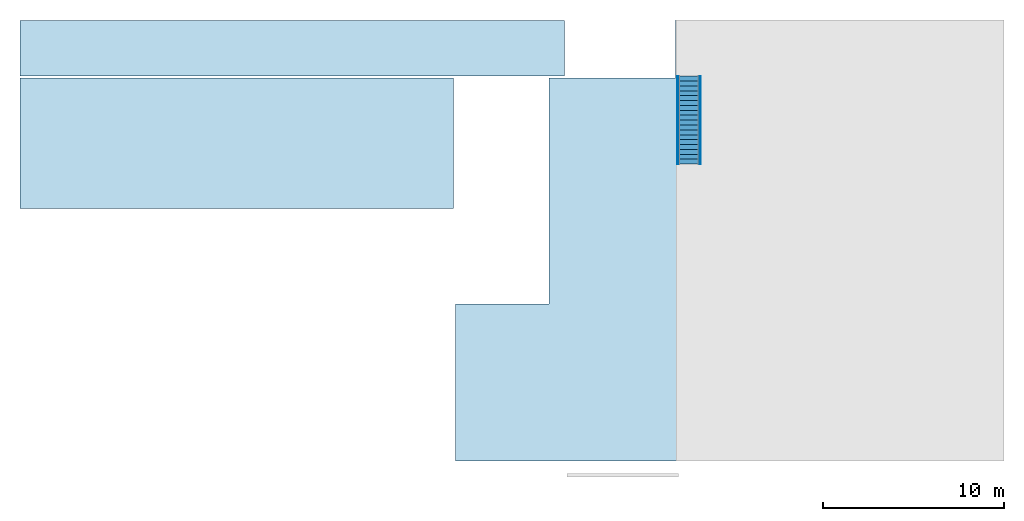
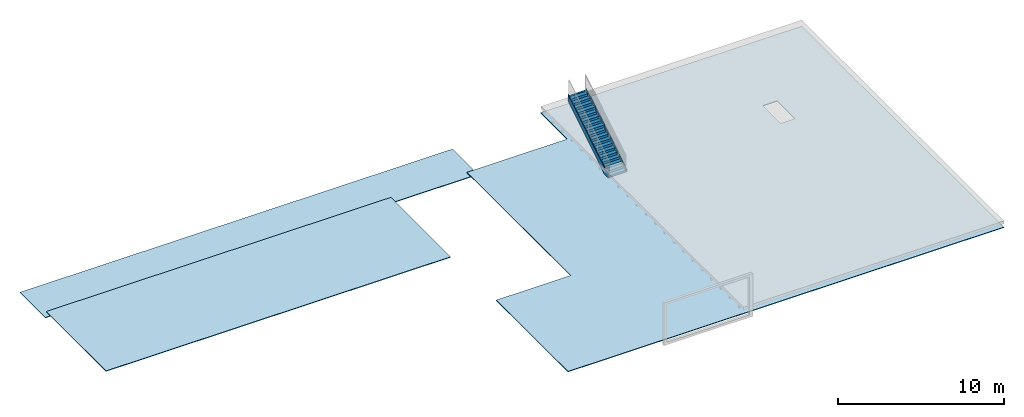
# One storey, part 1 of 4: 3 slabs, 2 members, 1 stair flight, 1 opening, 1 element without a shape of its own.
"""IFC2X3 building model written with IfcOpenShell, lengths in millimetres."""

from ifc_helpers import new_model, entity, si_unit, converted_unit, derived_unit, direction, frame, frame_2d, origin, origin_2d_with_axis, place, context, subcontext, project, spatial, polyline, rectangle, outline, extrude, material, layer, layer_set, layer_usage, type_object, element, aggregate, save


model = new_model("IFC2X3")

# Units and contexts
model_context = context("Model", 3, precision=0.01, world=origin(), true_north=direction((4.05803320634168e-15, -1.0)))
body_context = subcontext(model_context, "Body", "Model", "MODEL_VIEW")
ifc_project = project(units=[si_unit("LENGTHUNIT", "METRE", prefix="MILLI"), si_unit("AREAUNIT", "SQUARE_METRE"), si_unit("VOLUMEUNIT", "CUBIC_METRE"), converted_unit("PLANEANGLEUNIT", "DEGREE", entity("IfcRatioMeasure", 0.0174532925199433), si_unit("PLANEANGLEUNIT", "RADIAN"), dimensions=[0, 0, 0, 0, 0, 0, 0]), si_unit("MASSUNIT", "GRAM", prefix="KILO"), derived_unit("MASSDENSITYUNIT", [(si_unit("MASSUNIT", "GRAM", prefix="KILO"), 1), (si_unit("LENGTHUNIT", "METRE"), -3)]), si_unit("TIMEUNIT", "SECOND"), si_unit("FREQUENCYUNIT", "HERTZ"), si_unit("THERMODYNAMICTEMPERATUREUNIT", "DEGREE_CELSIUS"), derived_unit("THERMALTRANSMITTANCEUNIT", [(si_unit("MASSUNIT", "GRAM", prefix="KILO"), 1), (si_unit("THERMODYNAMICTEMPERATUREUNIT", "KELVIN"), -1), (si_unit("TIMEUNIT", "SECOND"), -3)]), derived_unit("VOLUMETRICFLOWRATEUNIT", [(si_unit("LENGTHUNIT", "METRE"), 3), (si_unit("TIMEUNIT", "SECOND"), -1)]), si_unit("ELECTRICCURRENTUNIT", "AMPERE"), si_unit("ELECTRICVOLTAGEUNIT", "VOLT"), si_unit("POWERUNIT", "WATT"), si_unit("FORCEUNIT", "NEWTON", prefix="KILO"), si_unit("ILLUMINANCEUNIT", "LUX"), si_unit("LUMINOUSFLUXUNIT", "LUMEN"), si_unit("LUMINOUSINTENSITYUNIT", "CANDELA"), derived_unit("USERDEFINED", [(si_unit("MASSUNIT", "GRAM", prefix="KILO"), -1), (si_unit("LENGTHUNIT", "METRE"), -2), (si_unit("TIMEUNIT", "SECOND"), 3), (si_unit("LUMINOUSFLUXUNIT", "LUMEN"), 1)]), derived_unit("LINEARVELOCITYUNIT", [(si_unit("LENGTHUNIT", "METRE"), 1), (si_unit("TIMEUNIT", "SECOND"), -1)]), si_unit("PRESSUREUNIT", "PASCAL"), derived_unit("USERDEFINED", [(si_unit("LENGTHUNIT", "METRE"), -2), (si_unit("MASSUNIT", "GRAM", prefix="KILO"), 1), (si_unit("TIMEUNIT", "SECOND"), -2)])], contexts=[model_context])

# Site, building, storey
site_placement = place(None, frame((927466.849349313, 583801.882853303, 0.0), z_axis=(0.0, 0.0, 1.0), x_axis=(-1.0, 0.0, 0.0)))
site = spatial("IfcSite", under=ifc_project, at=site_placement, Name="Surface", CompositionType="ELEMENT")
building_placement = place(site_placement, origin())
building = spatial("IfcBuilding", under=site, at=building_placement, CompositionType="ELEMENT")
storey_placement = place(building_placement, frame((0.0, 0.0, 47670.0)))
storey = spatial("IfcBuildingStorey", under=building, at=storey_placement, Name="Ceiling 3500", CompositionType="ELEMENT", Elevation=47670.0)

# Stair, members
stair_placement = place(storey_placement, origin())
stair = element("IfcStair", 1, at=stair_placement, inside=storey, Name="Assembled Stair:Stair", ObjectType="Assembled Stair:170mm max riser 270mm going", ShapeType="NOTDEFINED")
member_type = type_object("IfcMemberType", Name="Stringer:Stringer - 50mm Width", PredefinedType="STRINGER")
member_1_placement = place(stair_placement, origin())
member_1 = element("IfcMember", 2, at=member_1_placement, type_object=member_type, Name="Assembled Stair:Stair:770226 Stringer 1", ObjectType="Assembled Stair:170mm max riser 270mm going", context=body_context, shape_type="SweptSolid", body=[
    extrude(outline(polyline([(-2252.39228687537, -200.184465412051), (3466.85810106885, -200.18446541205), (3218.7099529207, 199.815534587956), (-2056.13722178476, 199.815534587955), (-2377.03854532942, 0.73786164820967), (-2252.39228687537, -200.184465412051)])), frame((-117250.59177989, 17947.9429596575, 1253.72325661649), z_axis=(1.0, 0.0, 0.0), x_axis=(0.0, -0.849761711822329, 0.527166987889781)), (0.0, 0.0, 1.0), 50.0000000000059),
])
member_2_placement = place(stair_placement, origin())
member_2 = element("IfcMember", 3, at=member_2_placement, type_object=member_type, Name="Assembled Stair:Stair:770226 Stringer 2", ObjectType="Assembled Stair:170mm max riser 270mm going", context=body_context, shape_type="SweptSolid", body=[
    extrude(outline(polyline([(-2252.39228687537, -200.184465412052), (3466.85810106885, -200.184465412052), (3218.70995292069, 199.815534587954), (-2056.13722178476, 199.815534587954), (-2377.03854532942, 0.737861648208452), (-2252.39228687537, -200.184465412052)])), frame((-118500.59177989, 17947.9429596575, 1253.72325661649), z_axis=(1.0, 0.0, 0.0), x_axis=(0.0, -0.849761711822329, 0.527166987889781)), (0.0, 0.0, 1.0), 50.0000000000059),
])

# Slabs
ifc_material = material(Name="Isopenal")
ifc_layer = layer(ifc_material, 50.0)
ifc_layer_set = layer_set([ifc_layer], Name="Floor:isopanel ceiling 50")
ifc_layer_usage_1 = layer_usage(ifc_layer_set, "AXIS3", "POSITIVE", 0.0)
slab_1_placement = place(storey_placement, origin())
element("IfcSlab", 4, at=slab_1_placement, inside=storey, material=ifc_layer_usage_1, Name="Floor:isopanel ceiling 50", ObjectType="Floor:isopanel ceiling 50", PredefinedType="FLOOR", context=body_context, shape_type="SweptSolid", body=[
    extrude(rectangle(XDim=3060.36927574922, YDim=30061.7964792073, at=frame_2d((1.13686837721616e-12, 0.0), x_axis=(1.0, 0.0))), frame((-95928.0390372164, 13577.285688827, -450.0), z_axis=(0.0, 0.0, -1.0), x_axis=(0.0, 1.0, 0.0)), (0.0, 0.0, 1.0), 49.9999999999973),
])
ifc_layer_usage_2 = layer_usage(ifc_layer_set, "AXIS3", "POSITIVE", 0.0)
slab_2_placement = place(storey_placement, frame((-135247.93727682, 12008.2777512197, 0.0)))
element("IfcSlab", 5, at=slab_2_placement, inside=storey, material=ifc_layer_usage_2, Name="Floor:isopanel ceiling 50", ObjectType="Floor:isopanel ceiling 50", PredefinedType="FLOOR", context=body_context, shape_type="SweptSolid", body=[
    extrude(rectangle(XDim=7200.00000000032, YDim=23950.7964792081, at=frame_2d((-15200.0, -5374.65349991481), x_axis=(0.0, 1.0))), frame((27175.3982396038, 12173.8460753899, 50.0), z_axis=(0.0, 0.0, -1.0), x_axis=(-1.0, 0.0, 0.0)), (0.0, 0.0, 1.0), 49.9999999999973),
])

# Slab, opening
slab_3_placement = place(storey_placement, frame((-135247.93727682, 12008.2777512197, 0.0)))
slab_3 = element("IfcSlab", 6, at=slab_3_placement, inside=storey, material=ifc_layer_usage_2, Name="Floor:isopanel ceiling 50:2", ObjectType="Floor:isopanel ceiling 50", PredefinedType="FLOOR", context=body_context, shape_type="SweptSolid", body=[
    extrude(outline(polyline([(9028.05274267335, -8974.65349991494), (9028.05274267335, -12173.8460753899), (27175.3982396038, -12173.8460753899), (27175.3982396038, 12173.8460753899), (-3124.60176039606, 12173.8460753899), (-3124.60176039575, 3526.29135359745), (2055.39823960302, 3526.29135359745), (2055.39823960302, -8974.65349991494), (9028.05274267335, -8974.65349991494)])), frame((27175.3982396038, 12173.8460753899, 50.0), z_axis=(0.0, 0.0, -1.0), x_axis=(-1.0, 0.0, 0.0)), (0.0, 0.0, 1.0), 49.9999999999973),
])
opening_placement = place(slab_2_placement, frame((5700.0, 7123.45064437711, 50.0)))
element("IfcOpeningElement", 7, at=opening_placement, cuts=slab_3, Name="Floor:isopanel ceiling 50:2", ObjectType="Opening", context=body_context, shape_type="SweptSolid", body=[
    extrude(rectangle(XDim=2151.52822149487, YDim=999.999999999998, at=origin_2d_with_axis()), frame((0.0, 0.0, 0.0), z_axis=(0.0, 0.0, -1.0), x_axis=(0.0, -1.0, 0.0)), (0.0, 0.0, 1.0), 49.9999999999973),
])

# Stair flight
stair_flight_placement = place(stair_placement, origin())
stair_flight = element("IfcStairFlight", 8, at=stair_flight_placement, Name="Assembled Stair:Stair:770226 Run 1", ObjectType="Assembled Stair:170mm max riser 270mm going", NumberOfRiser=19, NumberOfTreads=18, RiserHeight=0.5495406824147, TreadLength=0.885826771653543, context=body_context, shape_type="SweptSolid", body=[
    extrude(rectangle(XDim=1200.0, YDim=12.5000000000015, at=frame_2d((0.0, 2.16582307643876e-12), x_axis=(1.0, 0.0))), frame((-117850.59177989, 19961.2203267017, 0.0)), (0.0, 0.0, 1.0), 117.499999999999),
    extrude(rectangle(XDim=269.999999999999, YDim=1200.0, at=origin_2d_with_axis()), frame((-117850.59177989, 19832.4703267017, 117.499999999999), z_axis=(0.0, 0.0, 1.0), x_axis=(0.0, 1.0, 0.0)), (0.0, 0.0, 1.0), 49.9999999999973),
    extrude(rectangle(XDim=1200.0, YDim=12.5000000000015, at=frame_2d((0.0, 2.16582307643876e-12), x_axis=(1.0, 0.0))), frame((-117850.59177989, 19691.2203267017, 117.499999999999)), (0.0, 0.0, 1.0), 167.500000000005),
    extrude(rectangle(XDim=270.000000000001, YDim=1200.0, at=frame_2d((-1.08002495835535e-12, 0.0), x_axis=(1.0, 0.0))), frame((-117850.59177989, 19562.4703267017, 285.0), z_axis=(0.0, 0.0, 1.0), x_axis=(0.0, 1.0, 0.0)), (0.0, 0.0, 1.0), 49.9999999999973),
    extrude(rectangle(XDim=1200.0, YDim=12.5000000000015, at=origin_2d_with_axis()), frame((-117850.59177989, 19421.2203267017, 285.0)), (0.0, 0.0, 1.0), 167.500000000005),
    extrude(rectangle(XDim=270.000000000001, YDim=1200.0, at=frame_2d((-1.08002495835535e-12, 0.0), x_axis=(1.0, 0.0))), frame((-117850.59177989, 19292.4703267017, 452.500000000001), z_axis=(0.0, 0.0, 1.0), x_axis=(0.0, 1.0, 0.0)), (0.0, 0.0, 1.0), 49.9999999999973),
    extrude(rectangle(XDim=1200.0, YDim=12.5000000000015, at=origin_2d_with_axis()), frame((-117850.59177989, 19151.2203267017, 452.500000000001)), (0.0, 0.0, 1.0), 167.500000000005),
    extrude(rectangle(XDim=270.000000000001, YDim=1200.0, at=frame_2d((-1.08002495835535e-12, 0.0), x_axis=(1.0, 0.0))), frame((-117850.59177989, 19022.4703267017, 620.0), z_axis=(0.0, 0.0, 1.0), x_axis=(0.0, 1.0, 0.0)), (0.0, 0.0, 1.0), 49.9999999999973),
    extrude(rectangle(XDim=1200.0, YDim=12.5000000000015, at=origin_2d_with_axis()), frame((-117850.59177989, 18881.2203267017, 620.0)), (0.0, 0.0, 1.0), 167.500000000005),
    extrude(rectangle(XDim=270.000000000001, YDim=1200.0, at=frame_2d((1.08002495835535e-12, 0.0), x_axis=(1.0, 0.0))), frame((-117850.59177989, 18752.4703267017, 787.500000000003), z_axis=(0.0, 0.0, 1.0), x_axis=(0.0, 1.0, 0.0)), (0.0, 0.0, 1.0), 49.9999999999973),
    extrude(rectangle(XDim=1200.0, YDim=12.5000000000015, at=origin_2d_with_axis()), frame((-117850.59177989, 18611.2203267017, 787.500000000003)), (0.0, 0.0, 1.0), 167.500000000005),
    extrude(rectangle(XDim=270.000000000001, YDim=1200.0, at=frame_2d((1.08002495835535e-12, 0.0), x_axis=(1.0, 0.0))), frame((-117850.59177989, 18482.4703267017, 955.0), z_axis=(0.0, 0.0, 1.0), x_axis=(0.0, 1.0, 0.0)), (0.0, 0.0, 1.0), 49.9999999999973),
    extrude(rectangle(XDim=1200.0, YDim=12.5000000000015, at=origin_2d_with_axis()), frame((-117850.59177989, 18341.2203267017, 955.0)), (0.0, 0.0, 1.0), 167.500000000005),
    extrude(rectangle(XDim=270.000000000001, YDim=1200.0, at=frame_2d((1.08002495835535e-12, 0.0), x_axis=(1.0, 0.0))), frame((-117850.59177989, 18212.4703267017, 1122.5), z_axis=(0.0, 0.0, 1.0), x_axis=(0.0, 1.0, 0.0)), (0.0, 0.0, 1.0), 49.9999999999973),
    extrude(rectangle(XDim=1200.0, YDim=12.5000000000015, at=origin_2d_with_axis()), frame((-117850.59177989, 18071.2203267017, 1122.5)), (0.0, 0.0, 1.0), 167.500000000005),
    extrude(rectangle(XDim=270.000000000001, YDim=1200.0, at=frame_2d((-1.08002495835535e-12, 0.0), x_axis=(1.0, 0.0))), frame((-117850.59177989, 17942.4703267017, 1290.0), z_axis=(0.0, 0.0, 1.0), x_axis=(0.0, 1.0, 0.0)), (0.0, 0.0, 1.0), 49.9999999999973),
    extrude(rectangle(XDim=1200.0, YDim=12.5000000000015, at=frame_2d((0.0, -2.16582307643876e-12), x_axis=(1.0, 0.0))), frame((-117850.59177989, 17801.2203267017, 1290.0)), (0.0, 0.0, 1.0), 167.500000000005),
    extrude(rectangle(XDim=270.000000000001, YDim=1200.0, at=frame_2d((-1.08002495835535e-12, 0.0), x_axis=(1.0, 0.0))), frame((-117850.59177989, 17672.4703267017, 1457.50000000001), z_axis=(0.0, 0.0, 1.0), x_axis=(0.0, 1.0, 0.0)), (0.0, 0.0, 1.0), 49.9999999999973),
    extrude(rectangle(XDim=1200.0, YDim=12.5000000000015, at=origin_2d_with_axis()), frame((-117850.59177989, 17531.2203267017, 1457.50000000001)), (0.0, 0.0, 1.0), 167.500000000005),
    extrude(rectangle(XDim=270.000000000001, YDim=1200.0, at=frame_2d((1.08002495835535e-12, 0.0), x_axis=(1.0, 0.0))), frame((-117850.59177989, 17402.4703267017, 1625.0), z_axis=(0.0, 0.0, 1.0), x_axis=(0.0, 1.0, 0.0)), (0.0, 0.0, 1.0), 49.9999999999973),
    extrude(rectangle(XDim=1200.0, YDim=12.5000000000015, at=origin_2d_with_axis()), frame((-117850.59177989, 17261.2203267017, 1625.0)), (0.0, 0.0, 1.0), 167.500000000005),
    extrude(rectangle(XDim=270.000000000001, YDim=1200.0, at=frame_2d((1.08002495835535e-12, 0.0), x_axis=(1.0, 0.0))), frame((-117850.59177989, 17132.4703267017, 1792.50000000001), z_axis=(0.0, 0.0, 1.0), x_axis=(0.0, 1.0, 0.0)), (0.0, 0.0, 1.0), 49.9999999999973),
    extrude(rectangle(XDim=1200.0, YDim=12.5000000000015, at=origin_2d_with_axis()), frame((-117850.59177989, 16991.2203267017, 1792.5)), (0.0, 0.0, 1.0), 167.500000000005),
    extrude(rectangle(XDim=270.000000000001, YDim=1200.0, at=frame_2d((1.08002495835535e-12, 0.0), x_axis=(1.0, 0.0))), frame((-117850.59177989, 16862.4703267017, 1960.0), z_axis=(0.0, 0.0, 1.0), x_axis=(0.0, 1.0, 0.0)), (0.0, 0.0, 1.0), 49.9999999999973),
    extrude(rectangle(XDim=1200.0, YDim=12.5000000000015, at=origin_2d_with_axis()), frame((-117850.59177989, 16721.2203267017, 1960.0)), (0.0, 0.0, 1.0), 167.500000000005),
    extrude(rectangle(XDim=270.000000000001, YDim=1200.0, at=frame_2d((1.08002495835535e-12, 0.0), x_axis=(1.0, 0.0))), frame((-117850.59177989, 16592.4703267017, 2127.50000000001), z_axis=(0.0, 0.0, 1.0), x_axis=(0.0, 1.0, 0.0)), (0.0, 0.0, 1.0), 49.9999999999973),
    extrude(rectangle(XDim=1200.0, YDim=12.5000000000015, at=origin_2d_with_axis()), frame((-117850.59177989, 16451.2203267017, 2127.5)), (0.0, 0.0, 1.0), 167.500000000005),
    extrude(rectangle(XDim=270.000000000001, YDim=1200.0, at=frame_2d((-1.08002495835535e-12, 0.0), x_axis=(1.0, 0.0))), frame((-117850.59177989, 16322.4703267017, 2295.0), z_axis=(0.0, 0.0, 1.0), x_axis=(0.0, 1.0, 0.0)), (0.0, 0.0, 1.0), 49.9999999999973),
    extrude(rectangle(XDim=1200.0, YDim=12.5000000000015, at=origin_2d_with_axis()), frame((-117850.59177989, 16181.2203267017, 2295.0)), (0.0, 0.0, 1.0), 167.500000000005),
    extrude(rectangle(XDim=270.000000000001, YDim=1200.0, at=frame_2d((-1.08002495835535e-12, 0.0), x_axis=(1.0, 0.0))), frame((-117850.59177989, 16052.4703267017, 2462.50000000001), z_axis=(0.0, 0.0, 1.0), x_axis=(0.0, 1.0, 0.0)), (0.0, 0.0, 1.0), 49.9999999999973),
    extrude(rectangle(XDim=1200.0, YDim=12.5000000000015, at=origin_2d_with_axis()), frame((-117850.59177989, 15911.2203267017, 2462.5)), (0.0, 0.0, 1.0), 167.500000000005),
    extrude(rectangle(XDim=270.000000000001, YDim=1200.0, at=frame_2d((1.08002495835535e-12, 0.0), x_axis=(1.0, 0.0))), frame((-117850.59177989, 15782.4703267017, 2630.0), z_axis=(0.0, 0.0, 1.0), x_axis=(0.0, 1.0, 0.0)), (0.0, 0.0, 1.0), 49.9999999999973),
    extrude(rectangle(XDim=1200.0, YDim=12.5000000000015, at=origin_2d_with_axis()), frame((-117850.59177989, 15641.2203267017, 2630.0)), (0.0, 0.0, 1.0), 167.500000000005),
    extrude(rectangle(XDim=270.000000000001, YDim=1200.0, at=frame_2d((1.08002495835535e-12, 0.0), x_axis=(1.0, 0.0))), frame((-117850.59177989, 15512.4703267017, 2797.50000000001), z_axis=(0.0, 0.0, 1.0), x_axis=(0.0, 1.0, 0.0)), (0.0, 0.0, 1.0), 49.9999999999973),
    extrude(rectangle(XDim=1200.0, YDim=12.5000000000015, at=origin_2d_with_axis()), frame((-117850.59177989, 15371.2203267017, 2797.50000000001)), (0.0, 0.0, 1.0), 167.500000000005),
    extrude(rectangle(XDim=1200.0, YDim=12.4999999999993, at=frame_2d((0.0, -1.0831335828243e-12), x_axis=(1.0, 0.0))), frame((-117850.59177989, 15101.2203267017, 2965.0)), (0.0, 0.0, 1.0), 167.499999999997),
    extrude(rectangle(XDim=270.000000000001, YDim=1200.0, at=frame_2d((1.08002495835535e-12, 0.0), x_axis=(1.0, 0.0))), frame((-117850.59177989, 15242.4703267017, 2965.0), z_axis=(0.0, 0.0, 1.0), x_axis=(0.0, 1.0, 0.0)), (0.0, 0.0, 1.0), 49.9999999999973),
])

aggregate(stair, [stair_flight, member_1, member_2])

save(model, "model.ifc")
